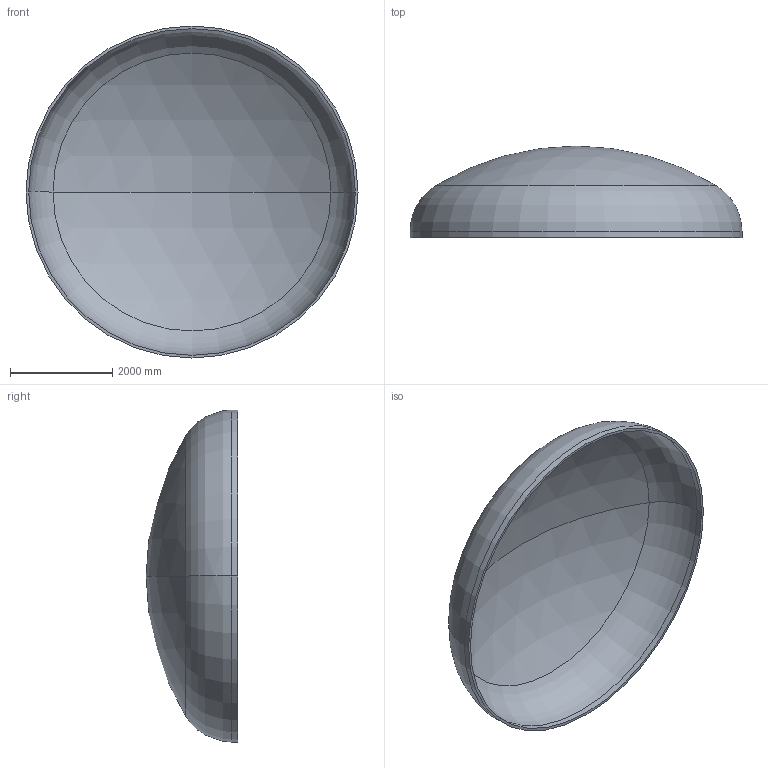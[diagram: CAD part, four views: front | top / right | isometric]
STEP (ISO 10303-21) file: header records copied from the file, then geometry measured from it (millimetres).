
FILE_DESCRIPTION (( 'STEP AP203' ), '1' );
FILE_NAME ('DIN 28013 Korbbogenform_-_Boden DIN 28013 - 6500 x 120 - I - s=52.step', '2016-07-04T10:42:28', ( '' ), ( '' ), 'SwSTEP 2.0', 'SolidWorks 2013', '' );
FILE_SCHEMA (( 'CONFIG_CONTROL_DESIGN' ));
Length unit declared in the file: millimetre
Products named in the file (1): DIN 28013 Korbbogenform_-_Boden DIN 28013 - 6500 x 120 - I - s=52
Bounding box: 6500 x 1793.06 x 6500 mm (x, y, z)
Volume: 2490628034.7 mm3; surface area: 96852375.6 mm2
Topology: 1 solids, 1 shells, 13 faces, 24 edges, 14 vertices
Faces by surface type: torus 4, cylinder 4, sphere 4, plane 1
Entity records: 407 total; most frequent: DIRECTION 72, CARTESIAN_POINT 52, ORIENTED_EDGE 48, AXIS2_PLACEMENT_3D 34, EDGE_CURVE 24, CIRCLE 20, EDGE_LOOP 14, VERTEX_POINT 14
